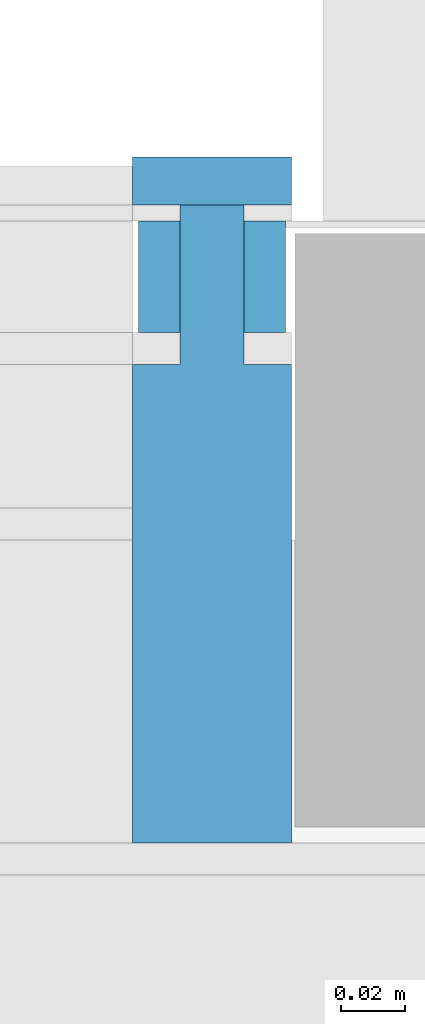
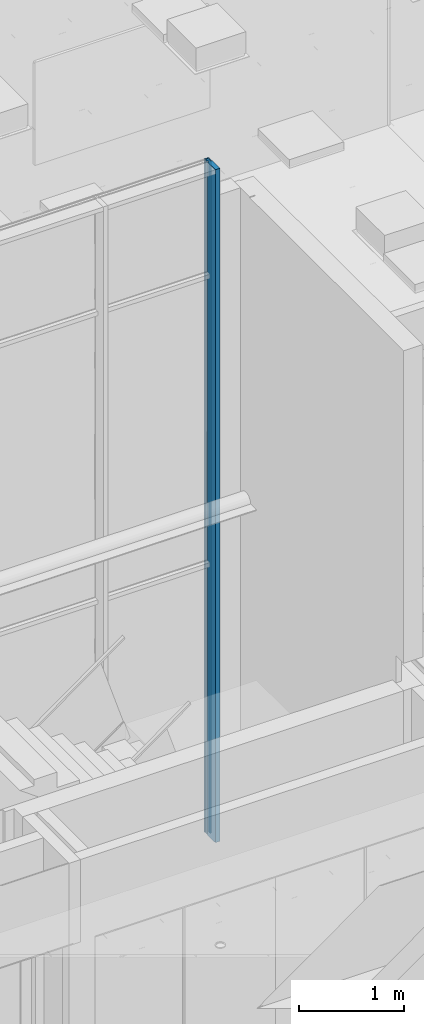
# One storey, part 112 of 347: 4 building element parts, 1 element without a shape of its own.
"""IFC2X3 building model written with IfcOpenShell, lengths in millimetres."""

from ifc_helpers import new_model, entity, si_unit, converted_unit, derived_unit, money_unit, direction, frame, origin_with_axes, place, context, subcontext, project, spatial, faceted_brep, material, type_object, element, aggregate, save


model = new_model("IFC2X3")

# Units and contexts
model_context = context("Model", 3, precision=0.01, world=origin_with_axes(), true_north=direction((0.0, 1.0)))
plan_context = context("Plan", 3, precision=0.01, world=origin_with_axes(), true_north=direction((0.0, 1.0)))
body_context = subcontext(model_context, "Body", "Model", "MODEL_VIEW")
ifc_project = project(units=[si_unit("LENGTHUNIT", "METRE", prefix="MILLI"), si_unit("AREAUNIT", "SQUARE_METRE"), si_unit("VOLUMEUNIT", "CUBIC_METRE"), converted_unit("PLANEANGLEUNIT", "DEGREE", entity("IfcPlaneAngleMeasure", 0.0174532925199), si_unit("PLANEANGLEUNIT", "RADIAN"), dimensions=[0, 0, 0, 0, 0, 0, 0]), money_unit("EUR"), converted_unit("TIMEUNIT", "Year", entity("IfcTimeMeasure", 31556926.0), si_unit("TIMEUNIT", "SECOND"), dimensions=[0, 0, 1, 0, 0, 0, 0]), si_unit("MASSUNIT", "GRAM", prefix="KILO"), si_unit("THERMODYNAMICTEMPERATUREUNIT", "DEGREE_CELSIUS"), si_unit("LUMINOUSINTENSITYUNIT", "LUMEN"), si_unit("ENERGYUNIT", "JOULE", prefix="MEGA"), derived_unit("THERMALCONDUCTANCEUNIT", [(si_unit("POWERUNIT", "WATT"), 1), (si_unit("LENGTHUNIT", "METRE"), -1), (si_unit("THERMODYNAMICTEMPERATUREUNIT", "KELVIN"), -1)]), derived_unit("SPECIFICHEATCAPACITYUNIT", [(si_unit("ENERGYUNIT", "JOULE"), 1), (si_unit("MASSUNIT", "GRAM", prefix="KILO"), -1), (si_unit("THERMODYNAMICTEMPERATUREUNIT", "KELVIN"), -1)]), derived_unit("MASSDENSITYUNIT", [(si_unit("MASSUNIT", "GRAM", prefix="KILO"), 1), (si_unit("VOLUMEUNIT", "CUBIC_METRE"), -1)])], contexts=[model_context, plan_context])

# Site, building, storey
site_placement = place(None, origin_with_axes())
site = spatial("IfcSite", under=ifc_project, at=site_placement, Name="Site", CompositionType="ELEMENT")
building_placement = place(site_placement, origin_with_axes())
building = spatial("IfcBuilding", under=site, at=building_placement, Name="Naam gebouw", CompositionType="ELEMENT")
storey_placement = place(building_placement, origin_with_axes())
storey = spatial("IfcBuildingStorey", under=building, at=storey_placement, Name="begane grond", CompositionType="ELEMENT", Elevation=0.0)

# Column, building element parts
column_type = type_object("IfcColumnType", Name="31 vliesgevelstijl 50 x 215", PredefinedType="COLUMN")
column_placement = place(storey_placement, frame((23809.9999999, 18400.0, 0.0), z_axis=(0.0, 0.0, 1.0), x_axis=(1.0, 0.0, 0.0)))
column = element("IfcColumn", 1, at=column_placement, inside=storey, type_object=column_type, Name="28_kolom ø 275mm", ObjectType="COLUMN")
ifc_material_1 = material(Name="Membraan - rubber")
building_element_part_1_placement = place(column_placement, origin_with_axes())
building_element_part_1 = element("IfcBuildingElementPart", 2, at=building_element_part_1_placement, material=ifc_material_1, Name="Membraan - rubber", context=body_context, shape_type="Brep", body=[
    faceted_brep([(23.0000002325, 192.999997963, 0.0), (23.0000002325, 192.999997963, 3200.0), (23.0000002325, 195.0, 3200.0), (23.0000002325, 195.000000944, 7840.0), (23.0000002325, 160.000000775, 7840.0), (23.0000002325, 160.000000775, 0.0), (10.0, 192.999997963, 0.0), (10.0, 192.999997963, 3200.0), (10.0, 195.0, 3200.0), (10.0000001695, 195.000000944, 7840.0), (10.0000001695, 160.000000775, 7840.0), (10.0000001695, 160.000000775, 0.0)], [[[0, 1, 2, 3, 4, 5]], [[1, 0, 6, 7]], [[8, 2, 1, 7]], [[2, 8, 9, 3]], [[3, 9, 10, 4]], [[10, 11, 5, 4]], [[6, 0, 5, 11]], [[7, 6, 11, 10, 9, 8]]]),
])
building_element_part_2_placement = place(column_placement, origin_with_axes())
building_element_part_2 = element("IfcBuildingElementPart", 3, at=building_element_part_2_placement, material=ifc_material_1, Name="Membraan - rubber", context=body_context, shape_type="Brep", body=[
    faceted_brep([(-22.9999999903, 195.000000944, 7840.0), (-22.9999999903, 195.000000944, 0.0), (-22.9999999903, 160.000000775, 0.0), (-22.9999999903, 160.000000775, 7840.0), (-9.99999992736, 195.000000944, 7840.0), (-9.99999992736, 195.000000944, 0.0), (-9.99999992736, 160.000000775, 0.0), (-9.99999992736, 160.000000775, 7840.0)], [[[0, 1, 2, 3]], [[4, 5, 1, 0]], [[2, 1, 5, 6]], [[3, 2, 6, 7]], [[4, 0, 3, 7]], [[7, 6, 5, 4]]]),
])
ifc_material_2 = material(Name="Metaal - Aluminium")
building_element_part_3_placement = place(column_placement, origin_with_axes())
building_element_part_3 = element("IfcBuildingElementPart", 4, at=building_element_part_3_placement, material=ifc_material_2, Name="Metaal - Aluminium", context=body_context, shape_type="Brep", body=[
    faceted_brep([(25.0000010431, 0.0, 7840.0), (-25.0, 0.0, 7840.0), (-25.0, 0.0, 0.0), (25.0000010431, 0.0, 0.0), (-10.0000009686, 149.999999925, 7840.0), (-25.0, 149.999999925, 7840.0), (25.0000010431, 149.999999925, 7840.0), (9.99999880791, 149.999999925, 7840.0), (9.99999880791, 200.000000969, 7840.0), (-10.0000009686, 200.000000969, 7840.0), (-25.0, 149.999999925, 0.0), (25.0000010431, 149.999999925, 0.0), (-10.0000009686, 149.999999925, 0.0), (-10.0000009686, 200.000000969, 0.0), (9.99999880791, 200.000000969, 0.0), (9.99999880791, 149.999999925, 0.0)], [[[0, 1, 2, 3]], [[4, 5, 1, 0, 6, 7, 8, 9]], [[1, 5, 10, 2]], [[11, 3, 2, 10, 12, 13, 14, 15]], [[6, 0, 3, 11]], [[5, 4, 12, 10]], [[7, 6, 11, 15]], [[8, 7, 15, 14]], [[9, 8, 14, 13]], [[4, 9, 13, 12]]]),
])
building_element_part_4_placement = place(column_placement, origin_with_axes())
building_element_part_4 = element("IfcBuildingElementPart", 5, at=building_element_part_4_placement, material=ifc_material_2, Name="Metaal - Aluminium", context=body_context, shape_type="Brep", body=[
    faceted_brep([(-25.0, 215.0, 7840.0), (-25.0, 215.0, 0.0), (-25.0, 200.0, 0.0), (-25.0, 200.0, 7840.0), (25.0, 215.0, 7840.0), (25.0, 215.0, 0.0), (25.0, 200.0, 0.0), (25.0, 200.0, 7840.0)], [[[0, 1, 2, 3]], [[4, 5, 1, 0]], [[2, 1, 5, 6]], [[3, 2, 6, 7]], [[4, 0, 3, 7]], [[7, 6, 5, 4]]]),
])
aggregate(column, [building_element_part_1, building_element_part_2, building_element_part_3, building_element_part_4])

save(model, "model.ifc")
